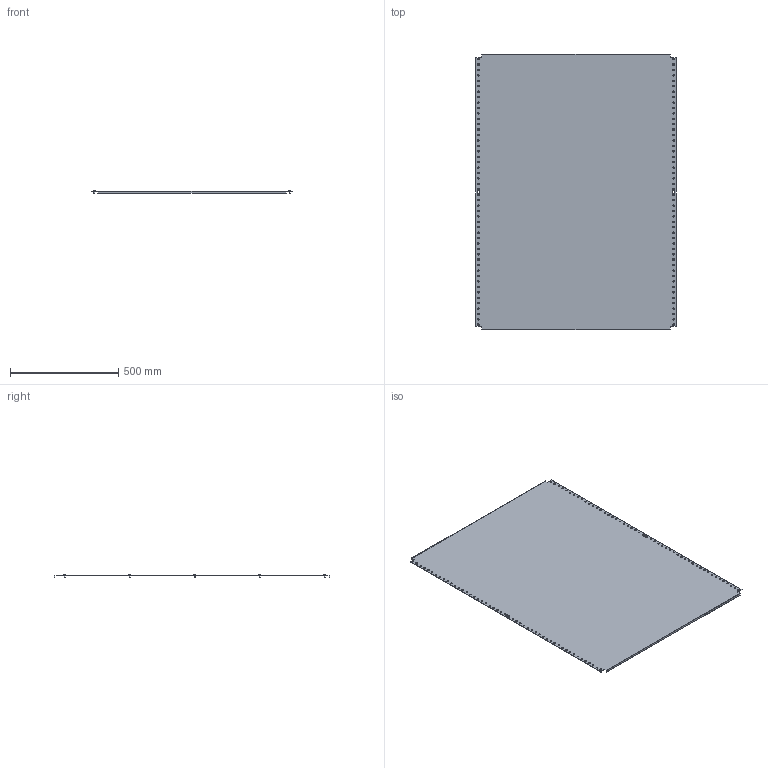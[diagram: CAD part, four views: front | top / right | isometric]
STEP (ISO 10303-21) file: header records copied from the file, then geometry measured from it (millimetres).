
FILE_DESCRIPTION (( 'STEP AP203' ), '1' );
FILE_NAME ('R6MP14100.STEP', '2025-03-28T12:08:34', ( '' ), ( '' ), 'SwSTEP 2.0', 'SolidWorks 2022', '' );
FILE_SCHEMA (( 'CONFIG_CONTROL_DESIGN' ));
Length unit declared in the file: millimetre
Products named in the file (3): RB.3293.00.00.0_-14; R6MP14100; M5x12 DIN 7500 C Torx Zinc_stright
Assembly tree (11 placements, depth 2):
  R6MP14100
    RB.3293.00.00.0_-14
    M5x12 DIN 7500 C Torx Zinc_stright  x10
Bounding box: 925 x 1270 x 15.56 mm (x, y, z)
Volume: 2135120.1 mm3; surface area: 2383681.6 mm2
Topology: 11 solids, 11 shells, 294 faces, 696 edges, 434 vertices
Faces by surface type: cylinder 124, plane 110, torus 20, cone 20, sphere 10, bspline 10
Full cylindrical faces by diameter (mm): 5 x10, 6.5 x100, 9.5 x10
Entity records: 5605 total; most frequent: CARTESIAN_POINT 962, DIRECTION 856, ORIENTED_EDGE 632, EDGE_LOOP 462, AXIS2_PLACEMENT_3D 384, EDGE_CURVE 316, VERTEX_POINT 278, FACE_OUTER_BOUND 256
